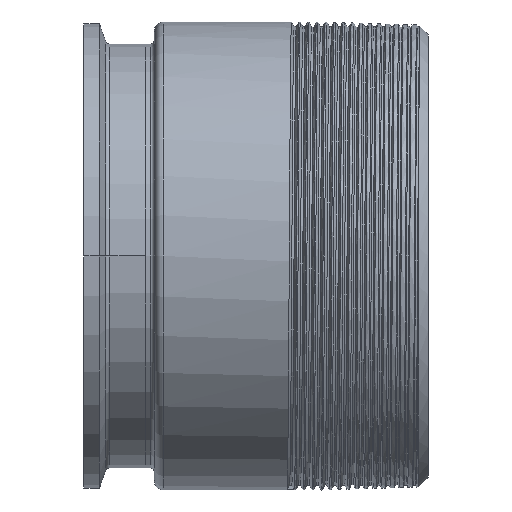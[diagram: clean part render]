
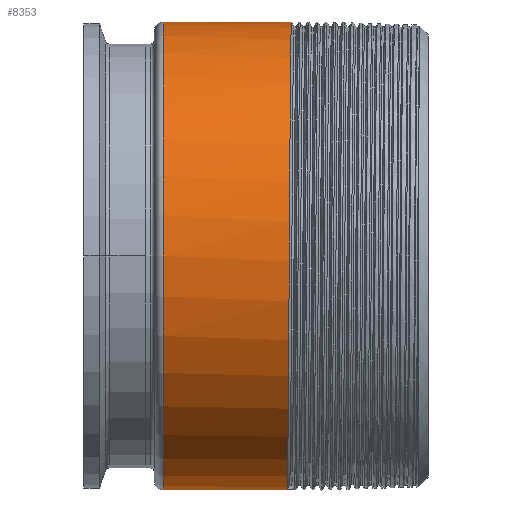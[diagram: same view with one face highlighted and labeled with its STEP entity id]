
A CAD part, front view. The second image highlights one B-rep face of the part: STEP entity #8353.
In plain terms, the highlighted cylindrical face has radius 84.138 mm (diameter 168.275 mm), a partial arc.
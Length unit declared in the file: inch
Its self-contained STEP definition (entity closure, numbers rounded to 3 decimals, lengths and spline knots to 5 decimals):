
#86 = CARTESIAN_POINT ( 'NONE',  ( 2.00209, 0., -3.3125 ) ) ;
#90 = EDGE_CURVE ( 'NONE', #950, #2967, #6756, .T. ) ;
#104 = CARTESIAN_POINT ( 'NONE',  ( 0.25, 0., 0. ) ) ;
#112 = DIRECTION ( 'NONE',  ( -1., 0., 0. ) ) ;
#148 = DIRECTION ( 'NONE',  ( 0., 0., 1. ) ) ;
#249 = EDGE_CURVE ( 'NONE', #2967, #6319, #4696, .T. ) ;
#412 = CARTESIAN_POINT ( 'NONE',  ( 2.05417, -1.65625, 2.86871 ) ) ;
#460 = CARTESIAN_POINT ( 'NONE',  ( 2.02813, -3.3125, -0.88758 ) ) ;
#624 = VERTEX_POINT ( 'NONE', #1891 ) ;
#684 = CYLINDRICAL_SURFACE ( 'NONE', #2785, 3.3125 ) ;
#937 = ORIENTED_EDGE ( 'NONE', *, *, #4266, .F. ) ;
#950 = VERTEX_POINT ( 'NONE', #5773 ) ;
#1031 = VECTOR ( 'NONE', #112, 39.37008 ) ;
#1343 = CARTESIAN_POINT ( 'NONE',  ( 2.06459, 0., 3.3125 ) ) ;
#1408 = DIRECTION ( 'NONE',  ( -1., 0., 0. ) ) ;
#1891 = CARTESIAN_POINT ( 'NONE',  ( 0.25, 0., -3.3125 ) ) ;
#1995 = CARTESIAN_POINT ( 'NONE',  ( 2.04376, -2.86871, 1.65625 ) ) ;
#2292 = CARTESIAN_POINT ( 'NONE',  ( 2.0073, -0.88758, -3.3125 ) ) ;
#2785 = AXIS2_PLACEMENT_3D ( 'NONE', #3030, #1408, #148 ) ;
#2800 = ORIENTED_EDGE ( 'NONE', *, *, #90, .T. ) ;
#2860 = ORIENTED_EDGE ( 'NONE', *, *, #249, .T. ) ;
#2967 = VERTEX_POINT ( 'NONE', #1343 ) ;
#3030 = CARTESIAN_POINT ( 'NONE',  ( 0., 0., 0. ) ) ;
#3076 = DIRECTION ( 'NONE',  ( 0., 0., 1. ) ) ;
#3241 = CARTESIAN_POINT ( 'NONE',  ( 2.03855, -3.3125, 0.88758 ) ) ;
#3643 = DIRECTION ( 'NONE',  ( -1., 0., 0. ) ) ;
#4015 = CARTESIAN_POINT ( 'NONE',  ( 2.02292, -2.86871, -1.65625 ) ) ;
#4077 = EDGE_LOOP ( 'NONE', ( #937, #2800, #2860, #9039 ) ) ;
#4266 = EDGE_CURVE ( 'NONE', #950, #624, #6574, .T. ) ;
#4339 = FACE_OUTER_BOUND ( 'NONE', #4077, .T. ) ;
#4475 = VECTOR ( 'NONE', #3643, 39.37008 ) ;
#4696 = LINE ( 'NONE', #8139, #1031 ) ;
#4736 = CARTESIAN_POINT ( 'NONE',  ( 0.25, 0., 3.3125 ) ) ;
#5198 = EDGE_CURVE ( 'NONE', #624, #6319, #8126, .T. ) ;
#5351 = AXIS2_PLACEMENT_3D ( 'NONE', #104, #7502, #3076 ) ;
#5506 = CARTESIAN_POINT ( 'NONE',  ( 2.06459, 0., 3.3125 ) ) ;
#5773 = CARTESIAN_POINT ( 'NONE',  ( 2.00209, 0., -3.3125 ) ) ;
#6177 = CARTESIAN_POINT ( 'NONE',  ( 2.03334, -3.3125, 0. ) ) ;
#6319 = VERTEX_POINT ( 'NONE', #4736 ) ;
#6574 = LINE ( 'NONE', #8779, #4475 ) ;
#6756 =( BOUNDED_CURVE ( )  B_SPLINE_CURVE ( 2, ( #86, #2292, #8160, #6999, #4015, #460, #6177, #3241, #1995, #9100, #412, #8480, #5506 ),
 .UNSPECIFIED., .F., .F. ) 
 B_SPLINE_CURVE_WITH_KNOTS ( ( 3, 2, 2, 2, 2, 2, 3 ),
 ( 0., 0.00521, 0.01042, 0.01562, 0.02083, 0.02604, 0.03125 ),
 .UNSPECIFIED. ) 
 CURVE ( )  GEOMETRIC_REPRESENTATION_ITEM ( )  RATIONAL_B_SPLINE_CURVE ( ( 1., 0.966, 1., 0.966, 1., 0.966, 1., 0.966, 1., 0.966, 1., 0.966, 1. ) ) 
 REPRESENTATION_ITEM ( '' )  );
#6999 = CARTESIAN_POINT ( 'NONE',  ( 2.01772, -2.42492, -2.42492 ) ) ;
#7502 = DIRECTION ( 'NONE',  ( -1., 0., 0. ) ) ;
#8126 = CIRCLE ( 'NONE', #5351, 3.3125 ) ;
#8139 = CARTESIAN_POINT ( 'NONE',  ( 0., 0., 3.3125 ) ) ;
#8160 = CARTESIAN_POINT ( 'NONE',  ( 2.01251, -1.65625, -2.86871 ) ) ;
#8353 = ADVANCED_FACE ( 'NONE', ( #4339 ), #684, .T. ) ;
#8480 = CARTESIAN_POINT ( 'NONE',  ( 2.05938, -0.88758, 3.3125 ) ) ;
#8779 = CARTESIAN_POINT ( 'NONE',  ( 0., 0., -3.3125 ) ) ;
#9039 = ORIENTED_EDGE ( 'NONE', *, *, #5198, .F. ) ;
#9100 = CARTESIAN_POINT ( 'NONE',  ( 2.04897, -2.42492, 2.42492 ) ) ;
